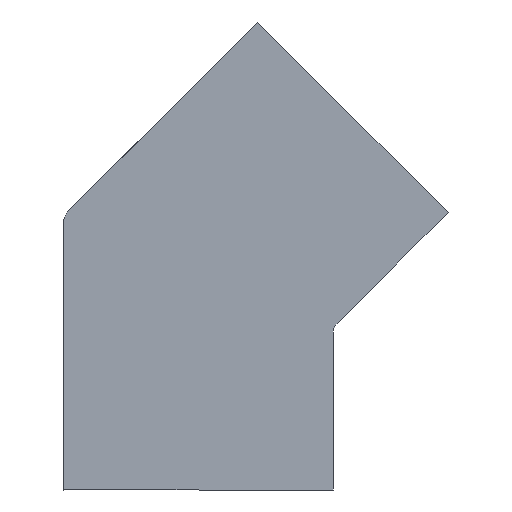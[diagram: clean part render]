
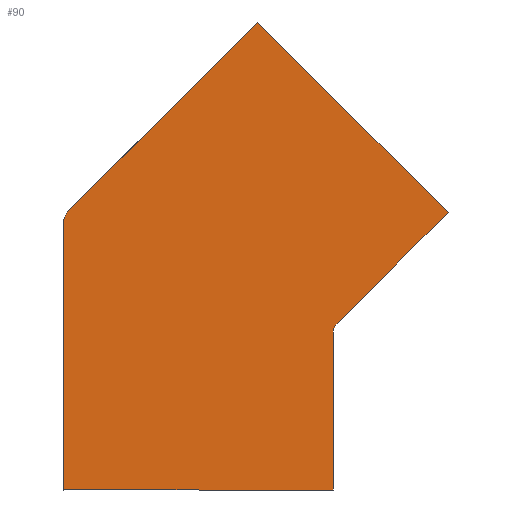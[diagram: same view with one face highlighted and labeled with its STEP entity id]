
A CAD part, left-side view. The second image highlights one B-rep face of the part: STEP entity #90.
In plain terms, the highlighted planar face has unit normal (-1, 0, 0).
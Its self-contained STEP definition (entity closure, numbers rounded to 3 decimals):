
#90=ADVANCED_FACE('',(#180),#181,.T.);
#180=FACE_OUTER_BOUND('',#274,.T.);
#181=PLANE('',#275);
#274=EDGE_LOOP('',(#445,#446,#447,#448,#449,#450,#451,#452));
#275=AXIS2_PLACEMENT_3D('',#453,#454,#455);
#445=ORIENTED_EDGE('',*,*,#591,.F.);
#446=ORIENTED_EDGE('',*,*,#614,.F.);
#447=ORIENTED_EDGE('',*,*,#610,.F.);
#448=ORIENTED_EDGE('',*,*,#606,.F.);
#449=ORIENTED_EDGE('',*,*,#602,.F.);
#450=ORIENTED_EDGE('',*,*,#598,.F.);
#451=ORIENTED_EDGE('',*,*,#595,.F.);
#452=ORIENTED_EDGE('',*,*,#585,.F.);
#453=CARTESIAN_POINT('',(-20.0,-4.99,30.341));
#454=DIRECTION('',(-1.0,0.,0.));
#455=DIRECTION('',(0.,-1.0,0.0));
#585=EDGE_CURVE('',#696,#698,#699,.T.);
#591=EDGE_CURVE('',#706,#696,#707,.T.);
#595=EDGE_CURVE('',#698,#712,#713,.T.);
#598=EDGE_CURVE('',#712,#716,#717,.T.);
#602=EDGE_CURVE('',#716,#722,#723,.T.);
#606=EDGE_CURVE('',#722,#728,#729,.T.);
#610=EDGE_CURVE('',#728,#734,#735,.T.);
#614=EDGE_CURVE('',#734,#706,#740,.T.);
#696=VERTEX_POINT('',#857);
#698=VERTEX_POINT('',#860);
#699=LINE('',#861,#862);
#706=VERTEX_POINT('',#871);
#707=LINE('',#872,#873);
#712=VERTEX_POINT('',#880);
#713=CIRCLE('',#881,2.);
#716=VERTEX_POINT('',#885);
#717=LINE('',#886,#887);
#722=VERTEX_POINT('',#894);
#723=LINE('',#895,#896);
#728=VERTEX_POINT('',#903);
#729=LINE('',#904,#905);
#734=VERTEX_POINT('',#912);
#735=CIRCLE('',#913,2.);
#740=LINE('',#919,#920);
#857=CARTESIAN_POINT('',(-20.0,20.0,0.));
#860=CARTESIAN_POINT('',(-20.0,20.0,39.864));
#861=CARTESIAN_POINT('',(-20.0,20.0,39.864));
#862=VECTOR('',#1021,1.0);
#871=CARTESIAN_POINT('',(-20.0,-20.0,0.));
#872=CARTESIAN_POINT('',(-20.0,0.,0.));
#873=VECTOR('',#1027,1.0);
#880=CARTESIAN_POINT('',(-20.0,19.414,41.279));
#881=AXIS2_PLACEMENT_3D('',#1030,#1031,#1032);
#885=CARTESIAN_POINT('',(-20.0,-8.774,69.467));
#886=CARTESIAN_POINT('',(-20.0,-8.774,69.467));
#887=VECTOR('',#1034,1.);
#894=CARTESIAN_POINT('',(-20.0,-37.058,41.183));
#895=CARTESIAN_POINT('',(-20.0,-37.058,41.183));
#896=VECTOR('',#1037,1.);
#903=CARTESIAN_POINT('',(-20.0,-20.586,24.71));
#904=CARTESIAN_POINT('',(-20.0,-20.586,24.71));
#905=VECTOR('',#1040,1.0);
#912=CARTESIAN_POINT('',(-20.0,-20.0,23.296));
#913=AXIS2_PLACEMENT_3D('',#1043,#1044,#1045);
#919=CARTESIAN_POINT('',(-20.0,-20.0,0.));
#920=VECTOR('',#1050,1.0);
#1021=DIRECTION('',(0.,0.,1.0));
#1027=DIRECTION('',(0.,1.0,0.0));
#1030=CARTESIAN_POINT('',(-20.0,18.,39.864));
#1031=DIRECTION('',(1.0,0.,0.));
#1032=DIRECTION('',(0.,-1.0,0.0));
#1034=DIRECTION('',(0.,-0.707,0.707));
#1037=DIRECTION('',(0.,-0.707,-0.707));
#1040=DIRECTION('',(0.,0.707,-0.707));
#1043=CARTESIAN_POINT('',(-20.0,-22.,23.296));
#1044=DIRECTION('',(-1.0,0.,0.));
#1045=DIRECTION('',(0.,-1.0,0.0));
#1050=DIRECTION('',(0.,0.,-1.0));
